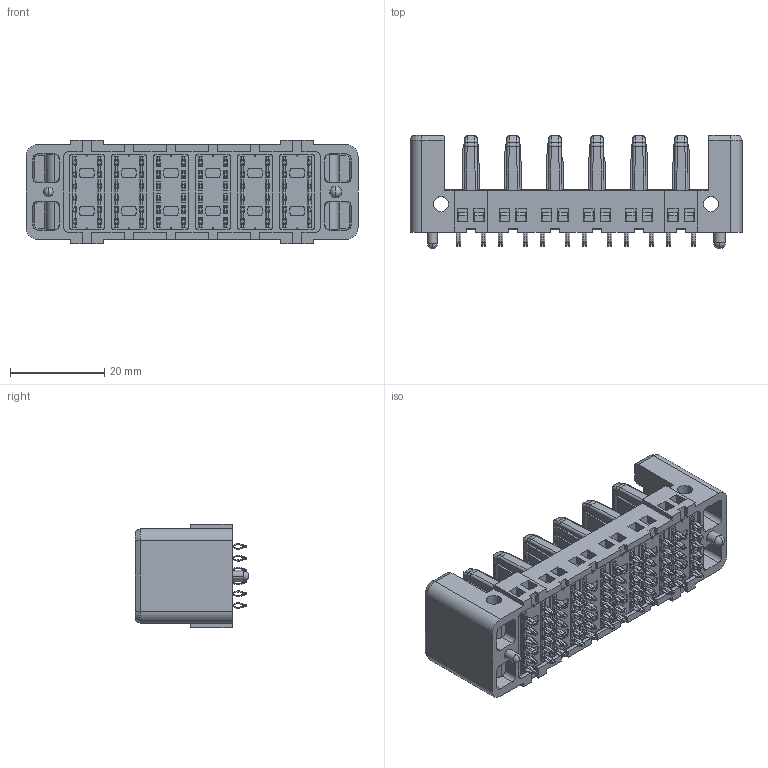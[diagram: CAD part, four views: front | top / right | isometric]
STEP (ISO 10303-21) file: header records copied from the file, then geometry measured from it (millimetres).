
FILE_DESCRIPTION(/* description */ (''),/* implementation_level */ '2;1');
FILE_NAME(/* name */ 'PDC3320F0001-24S石头档.stp',/* time_stamp */ '2024-08-16T11:28:05+08:00',/* author */ (''),/* organization */ (''),/* preprocessor_version */ 'ST-DEVELOPER v16.7',/* originating_system */ 'SIEMENS PLM Software NX 1946',/* authorisation */ '');
FILE_SCHEMA (('AUTOMOTIVE_DESIGN { 1 0 10303 214 3 1 1 1 }'));
Products named in the file (1): _model1
Bounding box: 70.3 x 24 x 22 mm (x, y, z)
Volume: 16466.8 mm3; surface area: 15228.5 mm2
Topology: 1 solids, 22 shells, 3976 faces, 10690 edges, 6700 vertices
Faces by surface type: plane 1522, cylinder 1179, torus 576, bspline 312, extrusion 299, cone 84, sphere 4
Entity records: 145662 total; most frequent: CARTESIAN_POINT 48209, ORIENTED_EDGE 21372, DIRECTION 18981, EDGE_CURVE 10686, VERTEX_POINT 6700, AXIS2_PLACEMENT_3D 6543, VECTOR 5895, LINE 5596
